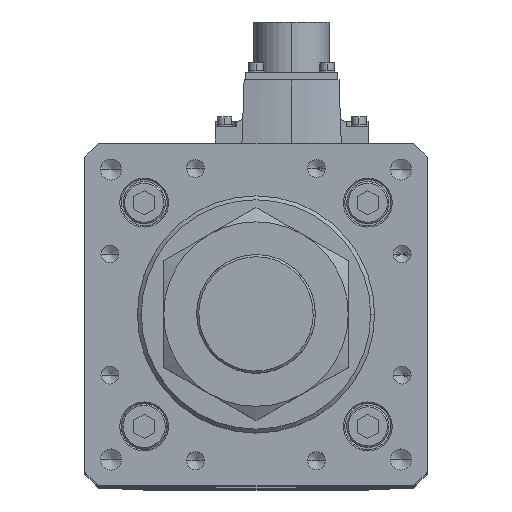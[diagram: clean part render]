
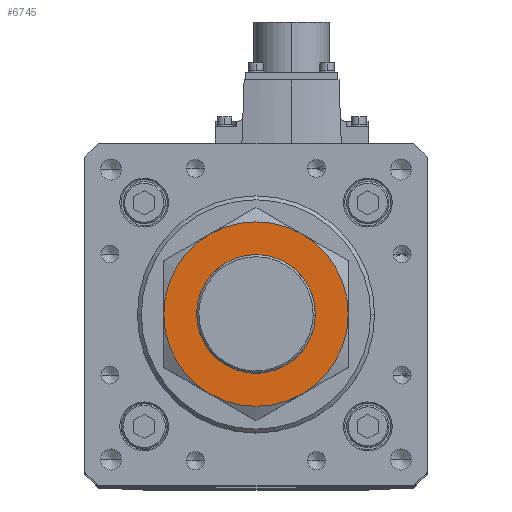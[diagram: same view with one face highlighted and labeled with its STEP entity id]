
A CAD part, top view. The second image highlights one B-rep face of the part: STEP entity #6745.
In plain terms, the highlighted planar face has unit normal (0, 0, 1).
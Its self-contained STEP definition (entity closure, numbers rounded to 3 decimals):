
#480 = DIRECTION ( 'NONE',  ( 0., 0., -1. ) ) ;
#601 = DIRECTION ( 'NONE',  ( 0., 0., -1. ) ) ;
#798 = VERTEX_POINT ( 'NONE', #35450 ) ;
#886 = DIRECTION ( 'NONE',  ( 0., 0., -1. ) ) ;
#1249 = EDGE_LOOP ( 'NONE', ( #20258, #37653, #35663, #3606, #7289, #33548 ) ) ;
#1349 = VERTEX_POINT ( 'NONE', #22021 ) ;
#1666 = DIRECTION ( 'NONE',  ( 0., 0., -1. ) ) ;
#2656 = CARTESIAN_POINT ( 'NONE',  ( 22.5, 0., 27. ) ) ;
#3070 = CARTESIAN_POINT ( 'NONE',  ( 0., 0., 27. ) ) ;
#3580 = DIRECTION ( 'NONE',  ( 0., 0., 1. ) ) ;
#3606 = ORIENTED_EDGE ( 'NONE', *, *, #33648, .F. ) ;
#4679 = FACE_BOUND ( 'NONE', #14367, .T. ) ;
#5160 = EDGE_CURVE ( 'NONE', #22967, #798, #22812, .T. ) ;
#6440 = VERTEX_POINT ( 'NONE', #10976 ) ;
#6745 = ADVANCED_FACE ( 'NONE', ( #34594, #4679 ), #24041, .T. ) ;
#7012 = CARTESIAN_POINT ( 'NONE',  ( 0., 0., 27. ) ) ;
#7289 = ORIENTED_EDGE ( 'NONE', *, *, #38190, .F. ) ;
#7483 = ORIENTED_EDGE ( 'NONE', *, *, #21212, .F. ) ;
#9129 = DIRECTION ( 'NONE',  ( -1., 0., 0. ) ) ;
#9204 = CIRCLE ( 'NONE', #30081, 22.5 ) ;
#9555 = DIRECTION ( 'NONE',  ( -1., 0., 0. ) ) ;
#10976 = CARTESIAN_POINT ( 'NONE',  ( -35., 0., 27. ) ) ;
#11377 = CARTESIAN_POINT ( 'NONE',  ( -17.5, 30.311, 27. ) ) ;
#12058 = AXIS2_PLACEMENT_3D ( 'NONE', #12198, #601, #33338 ) ;
#12198 = CARTESIAN_POINT ( 'NONE',  ( 0., 0., 27. ) ) ;
#12267 = CIRCLE ( 'NONE', #38214, 35. ) ;
#12360 = CIRCLE ( 'NONE', #34377, 35. ) ;
#12433 = EDGE_CURVE ( 'NONE', #36731, #17504, #9204, .T. ) ;
#13227 = DIRECTION ( 'NONE',  ( 0., 0., 1. ) ) ;
#13536 = CARTESIAN_POINT ( 'NONE',  ( 17.5, -30.311, 27. ) ) ;
#14367 = EDGE_LOOP ( 'NONE', ( #36628, #7483 ) ) ;
#15695 = DIRECTION ( 'NONE',  ( -1., 0., 0. ) ) ;
#15879 = DIRECTION ( 'NONE',  ( 0., 0., -1. ) ) ;
#17504 = VERTEX_POINT ( 'NONE', #2656 ) ;
#17770 = CARTESIAN_POINT ( 'NONE',  ( 0., 0., 27. ) ) ;
#18759 = AXIS2_PLACEMENT_3D ( 'NONE', #21338, #24343, #9555 ) ;
#19252 = CARTESIAN_POINT ( 'NONE',  ( 0., 0., 27. ) ) ;
#20239 = VERTEX_POINT ( 'NONE', #23358 ) ;
#20258 = ORIENTED_EDGE ( 'NONE', *, *, #37861, .F. ) ;
#20917 = CARTESIAN_POINT ( 'NONE',  ( 0., 0., 27. ) ) ;
#21212 = EDGE_CURVE ( 'NONE', #17504, #36731, #28742, .T. ) ;
#21338 = CARTESIAN_POINT ( 'NONE',  ( 0., 0., 27. ) ) ;
#21508 = CIRCLE ( 'NONE', #18759, 35. ) ;
#22021 = CARTESIAN_POINT ( 'NONE',  ( -17.5, -30.311, 27. ) ) ;
#22050 = DIRECTION ( 'NONE',  ( 1., 0., 0. ) ) ;
#22812 = CIRCLE ( 'NONE', #12058, 35. ) ;
#22967 = VERTEX_POINT ( 'NONE', #11377 ) ;
#23358 = CARTESIAN_POINT ( 'NONE',  ( 35., 0., 27. ) ) ;
#24041 = PLANE ( 'NONE',  #26156 ) ;
#24141 = CIRCLE ( 'NONE', #35427, 35. ) ;
#24343 = DIRECTION ( 'NONE',  ( 0., 0., -1. ) ) ;
#25086 = DIRECTION ( 'NONE',  ( -1., 0., 0. ) ) ;
#25623 = CIRCLE ( 'NONE', #31962, 35. ) ;
#26156 = AXIS2_PLACEMENT_3D ( 'NONE', #20917, #3580, #32963 ) ;
#26552 = EDGE_CURVE ( 'NONE', #798, #20239, #12267, .T. ) ;
#27357 = AXIS2_PLACEMENT_3D ( 'NONE', #28268, #13227, #22050 ) ;
#28268 = CARTESIAN_POINT ( 'NONE',  ( 0., 0., 27. ) ) ;
#28742 = CIRCLE ( 'NONE', #27357, 22.5 ) ;
#29561 = VERTEX_POINT ( 'NONE', #13536 ) ;
#29652 = DIRECTION ( 'NONE',  ( 1., 0., 0. ) ) ;
#30081 = AXIS2_PLACEMENT_3D ( 'NONE', #17770, #35506, #29652 ) ;
#30383 = CARTESIAN_POINT ( 'NONE',  ( 0., 0., 27. ) ) ;
#31962 = AXIS2_PLACEMENT_3D ( 'NONE', #30383, #886, #15695 ) ;
#32963 = DIRECTION ( 'NONE',  ( 1., 0., 0. ) ) ;
#33338 = DIRECTION ( 'NONE',  ( -1., 0., 0. ) ) ;
#33548 = ORIENTED_EDGE ( 'NONE', *, *, #35740, .F. ) ;
#33648 = EDGE_CURVE ( 'NONE', #6440, #22967, #24141, .T. ) ;
#34377 = AXIS2_PLACEMENT_3D ( 'NONE', #7012, #15879, #36546 ) ;
#34594 = FACE_OUTER_BOUND ( 'NONE', #1249, .T. ) ;
#35427 = AXIS2_PLACEMENT_3D ( 'NONE', #3070, #480, #9129 ) ;
#35450 = CARTESIAN_POINT ( 'NONE',  ( 17.5, 30.311, 27. ) ) ;
#35506 = DIRECTION ( 'NONE',  ( 0., 0., 1. ) ) ;
#35663 = ORIENTED_EDGE ( 'NONE', *, *, #5160, .F. ) ;
#35740 = EDGE_CURVE ( 'NONE', #29561, #1349, #25623, .T. ) ;
#36546 = DIRECTION ( 'NONE',  ( -1., 0., 0. ) ) ;
#36628 = ORIENTED_EDGE ( 'NONE', *, *, #12433, .F. ) ;
#36731 = VERTEX_POINT ( 'NONE', #37966 ) ;
#37653 = ORIENTED_EDGE ( 'NONE', *, *, #26552, .F. ) ;
#37861 = EDGE_CURVE ( 'NONE', #20239, #29561, #12360, .T. ) ;
#37966 = CARTESIAN_POINT ( 'NONE',  ( -22.5, 0., 27. ) ) ;
#38190 = EDGE_CURVE ( 'NONE', #1349, #6440, #21508, .T. ) ;
#38214 = AXIS2_PLACEMENT_3D ( 'NONE', #19252, #1666, #25086 ) ;
